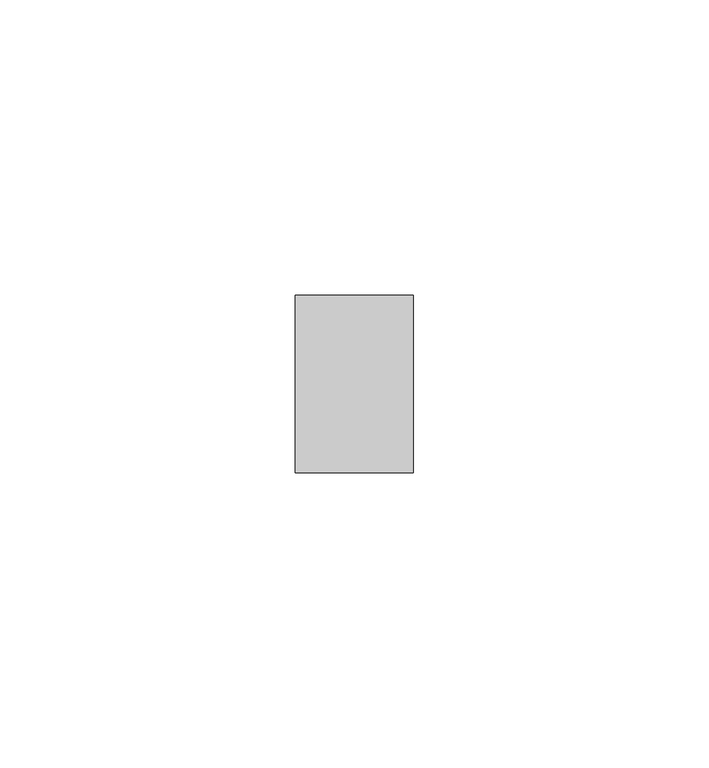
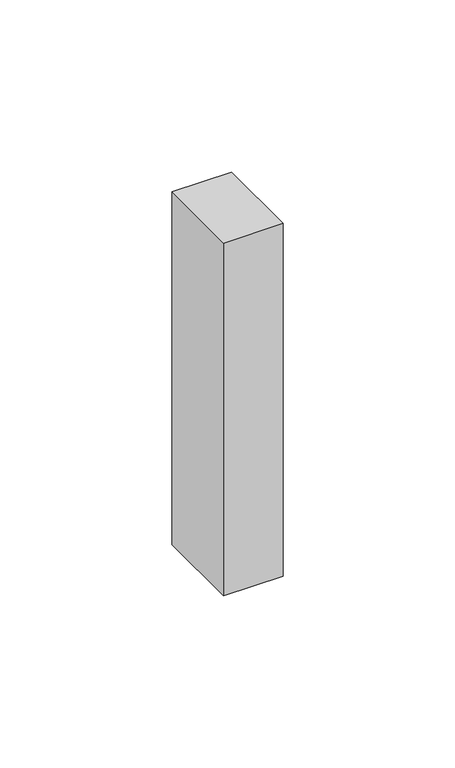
"""IFC4 building model written with IfcOpenShell, lengths in millimetres: member geometry, Прямоугольный импост : Квадрат 10 мм - Зазор между навесными плитами."""

from ifc_helpers import new_model, si_unit, frame, origin, place, context, project, spatial, polyline, outline, extrude, source, transform, mapped, element, save


def member_b94ce4ff(model_context):
    return source(origin(), model_context, "Body", "SweptSolid", [
        extrude(outline(polyline([(0.0, 15.0), (0.0, -15.0), (-20.0, -15.0), (-20.0, 15.0), (0.0, 15.0)])), frame((0.0, 0.0, -125.1868979), z_axis=(0.0, 0.0, 1.0), x_axis=(1.0, 0.0, 0.0)), (0.0, 0.0, 1.0), 125.1868979),
    ])


if __name__ == "__main__":
    model = new_model("IFC4")
    model_context = context("Model", 3, world=origin())
    ifc_project = project(units=[si_unit("LENGTHUNIT", "METRE", prefix="MILLI")], contexts=[model_context])
    site = spatial("IfcSite", under=ifc_project)
    building = spatial("IfcBuilding", under=site)
    placement = place(None, origin())
    member_shape = member_b94ce4ff(model_context)
    element("IfcMember", 1, ObjectType="Прямоугольный импост : Квадрат 10 мм - Зазор между навесными плитами", at=placement, inside=building, context=model_context, shape_type="MappedRepresentation", body=[
        mapped(member_shape, transform((0.0, 0.0, 0.0), x_axis=(1.0, 0.0, 0.0), y_axis=(0.0, 1.0, 0.0), z_axis=(0.0, 0.0, 1.0))),
    ])
    save(model, "model.ifc")
